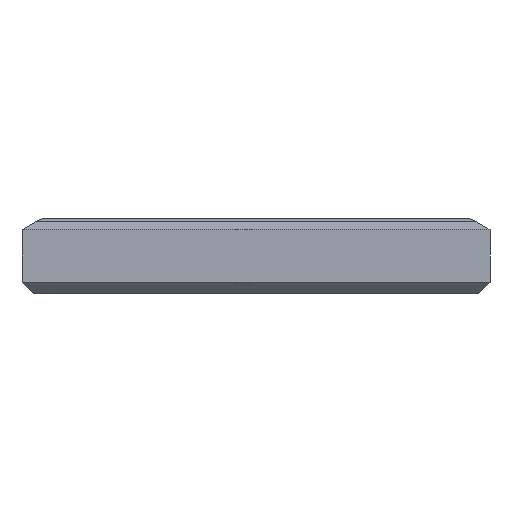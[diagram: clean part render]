
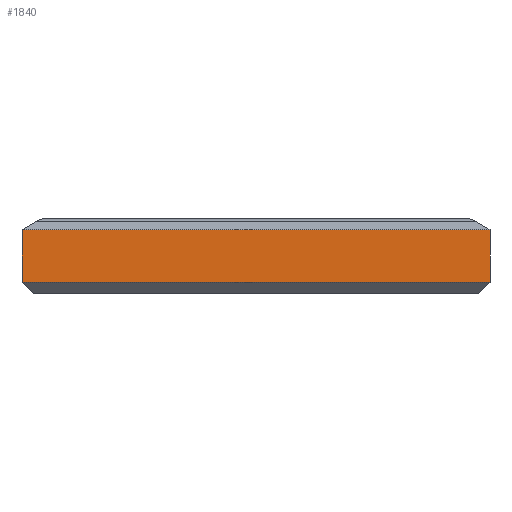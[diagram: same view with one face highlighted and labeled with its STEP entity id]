
A CAD part, front view. The second image highlights one B-rep face of the part: STEP entity #1840.
In plain terms, the highlighted planar face has unit normal (0, -1, 0).
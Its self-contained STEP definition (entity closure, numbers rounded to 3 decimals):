
#119 = VECTOR ( 'NONE', #2546, 1000. ) ;
#228 = VERTEX_POINT ( 'NONE', #2799 ) ;
#317 = DIRECTION ( 'NONE',  ( 1., 0., 0. ) ) ;
#419 = CARTESIAN_POINT ( 'NONE',  ( 125., 0., 17. ) ) ;
#603 = ORIENTED_EDGE ( 'NONE', *, *, #3573, .T. ) ;
#640 = DIRECTION ( 'NONE',  ( 0., 0., 1. ) ) ;
#1189 = ORIENTED_EDGE ( 'NONE', *, *, #6348, .F. ) ;
#1238 = CARTESIAN_POINT ( 'NONE',  ( 125., 0., 3. ) ) ;
#1840 = ADVANCED_FACE ( 'NONE', ( #4870 ), #2140, .T. ) ;
#1858 = VECTOR ( 'NONE', #6710, 1000. ) ;
#2140 = PLANE ( 'NONE',  #6215 ) ;
#2255 = DIRECTION ( 'NONE',  ( 0., 0., -1. ) ) ;
#2546 = DIRECTION ( 'NONE',  ( 0., 0., 1. ) ) ;
#2799 = CARTESIAN_POINT ( 'NONE',  ( 0., 0., 17. ) ) ;
#2889 = CARTESIAN_POINT ( 'NONE',  ( 0., 0., 10. ) ) ;
#3204 = DIRECTION ( 'NONE',  ( 0., -1., 0. ) ) ;
#3450 = LINE ( 'NONE', #4242, #6485 ) ;
#3573 = EDGE_CURVE ( 'NONE', #6362, #6597, #6130, .T. ) ;
#3592 = VECTOR ( 'NONE', #640, 1000. ) ;
#4242 = CARTESIAN_POINT ( 'NONE',  ( 62.5, 0., 3. ) ) ;
#4600 = EDGE_CURVE ( 'NONE', #228, #6597, #4857, .T. ) ;
#4781 = CARTESIAN_POINT ( 'NONE',  ( 125., 0., 10. ) ) ;
#4857 = LINE ( 'NONE', #6111, #1858 ) ;
#4870 = FACE_OUTER_BOUND ( 'NONE', #7189, .T. ) ;
#5448 = CARTESIAN_POINT ( 'NONE',  ( 0., 0., 3. ) ) ;
#6111 = CARTESIAN_POINT ( 'NONE',  ( 62.5, 0., 17. ) ) ;
#6130 = LINE ( 'NONE', #4781, #119 ) ;
#6136 = ORIENTED_EDGE ( 'NONE', *, *, #6904, .T. ) ;
#6215 = AXIS2_PLACEMENT_3D ( 'NONE', #6944, #3204, #2255 ) ;
#6348 = EDGE_CURVE ( 'NONE', #6987, #228, #6630, .T. ) ;
#6362 = VERTEX_POINT ( 'NONE', #1238 ) ;
#6485 = VECTOR ( 'NONE', #317, 1000. ) ;
#6597 = VERTEX_POINT ( 'NONE', #419 ) ;
#6630 = LINE ( 'NONE', #2889, #3592 ) ;
#6710 = DIRECTION ( 'NONE',  ( 1., 0., 0. ) ) ;
#6718 = ORIENTED_EDGE ( 'NONE', *, *, #4600, .F. ) ;
#6904 = EDGE_CURVE ( 'NONE', #6987, #6362, #3450, .T. ) ;
#6944 = CARTESIAN_POINT ( 'NONE',  ( 0., 0., 0. ) ) ;
#6987 = VERTEX_POINT ( 'NONE', #5448 ) ;
#7189 = EDGE_LOOP ( 'NONE', ( #603, #6718, #1189, #6136 ) ) ;
